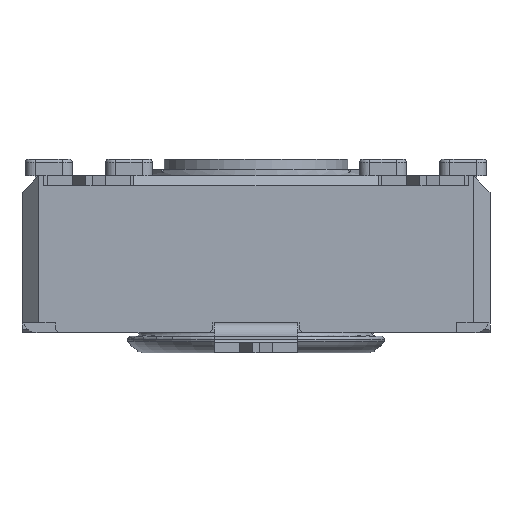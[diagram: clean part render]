
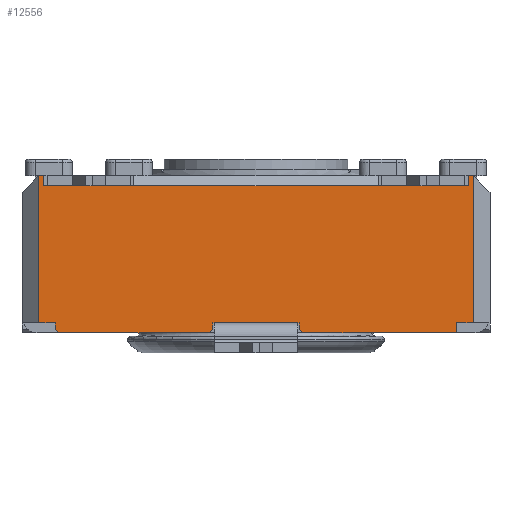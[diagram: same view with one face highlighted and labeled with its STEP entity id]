
A CAD part, front view. The second image highlights one B-rep face of the part: STEP entity #12556.
In plain terms, the highlighted planar face has unit normal (0, -1, 0).
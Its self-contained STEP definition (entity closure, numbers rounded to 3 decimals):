
#649=FACE_OUTER_BOUND('',#1319,.T.);
#1319=EDGE_LOOP('',(#8355,#8356,#8357,#8358,#8359,#8360,#8361,#8362,#8363,
#8364,#8365,#8366,#8367,#8368,#8369,#8370,#8371,#8372,#8373,#8374,#8375,
#8376,#8377,#8378,#8379,#8380,#8381));
#2007=LINE('',#17865,#3497);
#2020=LINE('',#17899,#3510);
#2025=LINE('',#17909,#3515);
#2103=LINE('',#18068,#3593);
#2128=LINE('',#18119,#3618);
#2154=LINE('',#18183,#3644);
#2155=LINE('',#18185,#3645);
#2156=LINE('',#18187,#3646);
#2157=LINE('',#18188,#3647);
#2158=LINE('',#18190,#3648);
#2159=LINE('',#18192,#3649);
#2160=LINE('',#18194,#3650);
#2161=LINE('',#18196,#3651);
#2162=LINE('',#18197,#3652);
#2163=LINE('',#18199,#3653);
#2164=LINE('',#18201,#3654);
#2165=LINE('',#18203,#3655);
#2166=LINE('',#18205,#3656);
#2167=LINE('',#18207,#3657);
#2168=LINE('',#18209,#3658);
#2169=LINE('',#18211,#3659);
#2170=LINE('',#18213,#3660);
#2171=LINE('',#18215,#3661);
#2172=LINE('',#18216,#3662);
#2173=LINE('',#18218,#3663);
#2174=LINE('',#18220,#3664);
#2175=LINE('',#18221,#3665);
#3497=VECTOR('',#14336,10.);
#3510=VECTOR('',#14375,10.);
#3515=VECTOR('',#14380,10.);
#3593=VECTOR('',#14482,10.);
#3618=VECTOR('',#14523,10.);
#3644=VECTOR('',#14571,10.);
#3645=VECTOR('',#14572,10.);
#3646=VECTOR('',#14573,10.);
#3647=VECTOR('',#14574,10.);
#3648=VECTOR('',#14575,10.);
#3649=VECTOR('',#14576,10.);
#3650=VECTOR('',#14577,10.);
#3651=VECTOR('',#14578,10.);
#3652=VECTOR('',#14579,10.);
#3653=VECTOR('',#14580,10.);
#3654=VECTOR('',#14581,10.);
#3655=VECTOR('',#14582,10.);
#3656=VECTOR('',#14583,10.);
#3657=VECTOR('',#14584,10.);
#3658=VECTOR('',#14585,10.);
#3659=VECTOR('',#14586,10.);
#3660=VECTOR('',#14587,10.);
#3661=VECTOR('',#14588,10.);
#3662=VECTOR('',#14589,10.);
#3663=VECTOR('',#14590,10.);
#3664=VECTOR('',#14591,10.);
#3665=VECTOR('',#14592,10.);
#4975=VERTEX_POINT('',#17843);
#4983=VERTEX_POINT('',#17864);
#4991=VERTEX_POINT('',#17898);
#4995=VERTEX_POINT('',#17906);
#4996=VERTEX_POINT('',#17908);
#5064=VERTEX_POINT('',#18065);
#5065=VERTEX_POINT('',#18067);
#5082=VERTEX_POINT('',#18116);
#5083=VERTEX_POINT('',#18118);
#5110=VERTEX_POINT('',#18182);
#5111=VERTEX_POINT('',#18184);
#5112=VERTEX_POINT('',#18186);
#5113=VERTEX_POINT('',#18189);
#5114=VERTEX_POINT('',#18191);
#5115=VERTEX_POINT('',#18193);
#5116=VERTEX_POINT('',#18195);
#5117=VERTEX_POINT('',#18198);
#5118=VERTEX_POINT('',#18200);
#5119=VERTEX_POINT('',#18202);
#5120=VERTEX_POINT('',#18204);
#5121=VERTEX_POINT('',#18206);
#5122=VERTEX_POINT('',#18208);
#5123=VERTEX_POINT('',#18210);
#5124=VERTEX_POINT('',#18212);
#5125=VERTEX_POINT('',#18214);
#5126=VERTEX_POINT('',#18217);
#5127=VERTEX_POINT('',#18219);
#6213=EDGE_CURVE('',#4975,#4983,#2007,.T.);
#6230=EDGE_CURVE('',#4991,#4975,#2020,.T.);
#6235=EDGE_CURVE('',#4996,#4995,#2025,.T.);
#6314=EDGE_CURVE('',#5065,#5064,#2103,.T.);
#6339=EDGE_CURVE('',#5083,#5082,#2128,.T.);
#6371=EDGE_CURVE('',#5064,#5110,#2154,.T.);
#6372=EDGE_CURVE('',#5110,#5111,#2155,.T.);
#6373=EDGE_CURVE('',#5111,#5112,#2156,.T.);
#6374=EDGE_CURVE('',#4996,#5112,#2157,.T.);
#6375=EDGE_CURVE('',#4995,#5113,#2158,.T.);
#6376=EDGE_CURVE('',#5114,#5113,#2159,.T.);
#6377=EDGE_CURVE('',#5114,#5115,#2160,.T.);
#6378=EDGE_CURVE('',#5116,#5115,#2161,.T.);
#6379=EDGE_CURVE('',#4991,#5116,#2162,.T.);
#6380=EDGE_CURVE('',#4983,#5117,#2163,.T.);
#6381=EDGE_CURVE('',#5117,#5118,#2164,.T.);
#6382=EDGE_CURVE('',#5119,#5118,#2165,.T.);
#6383=EDGE_CURVE('',#5119,#5120,#2166,.T.);
#6384=EDGE_CURVE('',#5120,#5121,#2167,.T.);
#6385=EDGE_CURVE('',#5121,#5122,#2168,.T.);
#6386=EDGE_CURVE('',#5123,#5122,#2169,.T.);
#6387=EDGE_CURVE('',#5123,#5124,#2170,.T.);
#6388=EDGE_CURVE('',#5124,#5125,#2171,.T.);
#6389=EDGE_CURVE('',#5125,#5083,#2172,.T.);
#6390=EDGE_CURVE('',#5082,#5126,#2173,.T.);
#6391=EDGE_CURVE('',#5127,#5126,#2174,.T.);
#6392=EDGE_CURVE('',#5127,#5065,#2175,.T.);
#8355=ORIENTED_EDGE('',*,*,#6314,.T.);
#8356=ORIENTED_EDGE('',*,*,#6371,.T.);
#8357=ORIENTED_EDGE('',*,*,#6372,.T.);
#8358=ORIENTED_EDGE('',*,*,#6373,.T.);
#8359=ORIENTED_EDGE('',*,*,#6374,.F.);
#8360=ORIENTED_EDGE('',*,*,#6235,.T.);
#8361=ORIENTED_EDGE('',*,*,#6375,.T.);
#8362=ORIENTED_EDGE('',*,*,#6376,.F.);
#8363=ORIENTED_EDGE('',*,*,#6377,.T.);
#8364=ORIENTED_EDGE('',*,*,#6378,.F.);
#8365=ORIENTED_EDGE('',*,*,#6379,.F.);
#8366=ORIENTED_EDGE('',*,*,#6230,.T.);
#8367=ORIENTED_EDGE('',*,*,#6213,.T.);
#8368=ORIENTED_EDGE('',*,*,#6380,.T.);
#8369=ORIENTED_EDGE('',*,*,#6381,.T.);
#8370=ORIENTED_EDGE('',*,*,#6382,.F.);
#8371=ORIENTED_EDGE('',*,*,#6383,.T.);
#8372=ORIENTED_EDGE('',*,*,#6384,.T.);
#8373=ORIENTED_EDGE('',*,*,#6385,.T.);
#8374=ORIENTED_EDGE('',*,*,#6386,.F.);
#8375=ORIENTED_EDGE('',*,*,#6387,.T.);
#8376=ORIENTED_EDGE('',*,*,#6388,.T.);
#8377=ORIENTED_EDGE('',*,*,#6389,.T.);
#8378=ORIENTED_EDGE('',*,*,#6339,.T.);
#8379=ORIENTED_EDGE('',*,*,#6390,.T.);
#8380=ORIENTED_EDGE('',*,*,#6391,.F.);
#8381=ORIENTED_EDGE('',*,*,#6392,.T.);
#11839=PLANE('',#13274);
#12556=ADVANCED_FACE('',(#649),#11839,.T.);
#13274=AXIS2_PLACEMENT_3D('',#18181,#14569,#14570);
#14336=DIRECTION('',(1.,0.,0.));
#14375=DIRECTION('',(1.,0.,0.));
#14380=DIRECTION('',(1.,0.,0.));
#14482=DIRECTION('',(-1.,0.,0.));
#14523=DIRECTION('',(-1.,0.,0.));
#14569=DIRECTION('center_axis',(0.,-1.,0.));
#14570=DIRECTION('ref_axis',(0.,0.,-1.));
#14571=DIRECTION('',(-1.,0.,0.));
#14572=DIRECTION('',(0.,0.,1.));
#14573=DIRECTION('',(-1.,0.,0.));
#14574=DIRECTION('',(0.,0.,1.));
#14575=DIRECTION('',(0.,0.,-1.));
#14576=DIRECTION('',(-0.707,0.,0.707));
#14577=DIRECTION('',(1.,0.,0.));
#14578=DIRECTION('',(-0.707,0.,-0.707));
#14579=DIRECTION('',(0.,0.,-1.));
#14580=DIRECTION('',(1.,0.,0.));
#14581=DIRECTION('',(0.,0.,-1.));
#14582=DIRECTION('',(-0.707,0.,0.707));
#14583=DIRECTION('',(1.,0.,0.));
#14584=DIRECTION('',(0.,0.,1.));
#14585=DIRECTION('',(1.,0.,0.));
#14586=DIRECTION('',(0.,0.,-1.));
#14587=DIRECTION('',(-1.,0.,0.));
#14588=DIRECTION('',(0.,0.,-1.));
#14589=DIRECTION('',(-1.,0.,0.));
#14590=DIRECTION('',(-1.,0.,0.));
#14591=DIRECTION('',(1.,0.,0.));
#14592=DIRECTION('',(-1.,0.,0.));
#17843=CARTESIAN_POINT('',(-8.717,-9.898,0.));
#17864=CARTESIAN_POINT('',(-6.217,-9.898,0.));
#17865=CARTESIAN_POINT('',(-14.467,-9.898,0.));
#17898=CARTESIAN_POINT('',(-8.767,-9.898,0.));
#17899=CARTESIAN_POINT('',(-14.467,-9.898,0.));
#17906=CARTESIAN_POINT('',(-13.467,-9.898,0.));
#17908=CARTESIAN_POINT('',(-13.967,-9.898,0.));
#17909=CARTESIAN_POINT('',(-7.245,-9.898,0.));
#18065=CARTESIAN_POINT('',(-13.717,-9.898,4.1));
#18067=CARTESIAN_POINT('',(-11.217,-9.898,4.1));
#18068=CARTESIAN_POINT('',(-6.467,-9.898,4.1));
#18116=CARTESIAN_POINT('',(-3.717,-9.898,4.1));
#18118=CARTESIAN_POINT('',(-1.217,-9.898,4.1));
#18119=CARTESIAN_POINT('',(-1.467,-9.898,4.1));
#18181=CARTESIAN_POINT('Origin',(-0.467,-9.898,0.));
#18182=CARTESIAN_POINT('',(-13.817,-9.898,4.1));
#18183=CARTESIAN_POINT('',(-3.944,-9.898,4.1));
#18184=CARTESIAN_POINT('',(-13.817,-9.898,4.4));
#18185=CARTESIAN_POINT('',(-13.817,-9.898,2.2));
#18186=CARTESIAN_POINT('',(-13.967,-9.898,4.4));
#18187=CARTESIAN_POINT('',(-14.467,-9.898,4.4));
#18188=CARTESIAN_POINT('',(-13.967,-9.898,0.));
#18189=CARTESIAN_POINT('',(-13.467,-9.898,-0.2));
#18190=CARTESIAN_POINT('',(-13.467,-9.898,-0.15));
#18191=CARTESIAN_POINT('',(-13.367,-9.898,-0.3));
#18192=CARTESIAN_POINT('',(-10.242,-9.898,-3.425));
#18193=CARTESIAN_POINT('',(-8.867,-9.898,-0.3));
#18194=CARTESIAN_POINT('',(-0.467,-9.898,-0.3));
#18195=CARTESIAN_POINT('',(-8.767,-9.898,-0.2));
#18196=CARTESIAN_POINT('',(-6.667,-9.898,1.9));
#18197=CARTESIAN_POINT('',(-8.767,-9.898,0.));
#18198=CARTESIAN_POINT('',(-6.167,-9.898,0.));
#18199=CARTESIAN_POINT('',(-14.467,-9.898,0.));
#18200=CARTESIAN_POINT('',(-6.167,-9.898,-0.2));
#18201=CARTESIAN_POINT('',(-6.167,-9.898,0.));
#18202=CARTESIAN_POINT('',(-6.067,-9.898,-0.3));
#18203=CARTESIAN_POINT('',(-4.767,-9.898,-1.6));
#18204=CARTESIAN_POINT('',(-1.467,-9.898,-0.3));
#18205=CARTESIAN_POINT('',(-0.467,-9.898,-0.3));
#18206=CARTESIAN_POINT('',(-1.467,-9.898,0.));
#18207=CARTESIAN_POINT('',(-1.467,-9.898,-0.15));
#18208=CARTESIAN_POINT('',(-0.967,-9.898,0.));
#18209=CARTESIAN_POINT('',(-0.646,-9.898,0.));
#18210=CARTESIAN_POINT('',(-0.967,-9.898,4.4));
#18211=CARTESIAN_POINT('',(-0.967,-9.898,0.));
#18212=CARTESIAN_POINT('',(-1.117,-9.898,4.4));
#18213=CARTESIAN_POINT('',(-14.467,-9.898,4.4));
#18214=CARTESIAN_POINT('',(-1.117,-9.898,4.1));
#18215=CARTESIAN_POINT('',(-1.117,-9.898,2.2));
#18216=CARTESIAN_POINT('',(-1.862,-9.898,4.1));
#18217=CARTESIAN_POINT('',(-3.817,-9.898,4.1));
#18218=CARTESIAN_POINT('',(-1.862,-9.898,4.1));
#18219=CARTESIAN_POINT('',(-11.117,-9.898,4.1));
#18220=CARTESIAN_POINT('',(-3.967,-9.898,4.1));
#18221=CARTESIAN_POINT('',(-3.944,-9.898,4.1));
